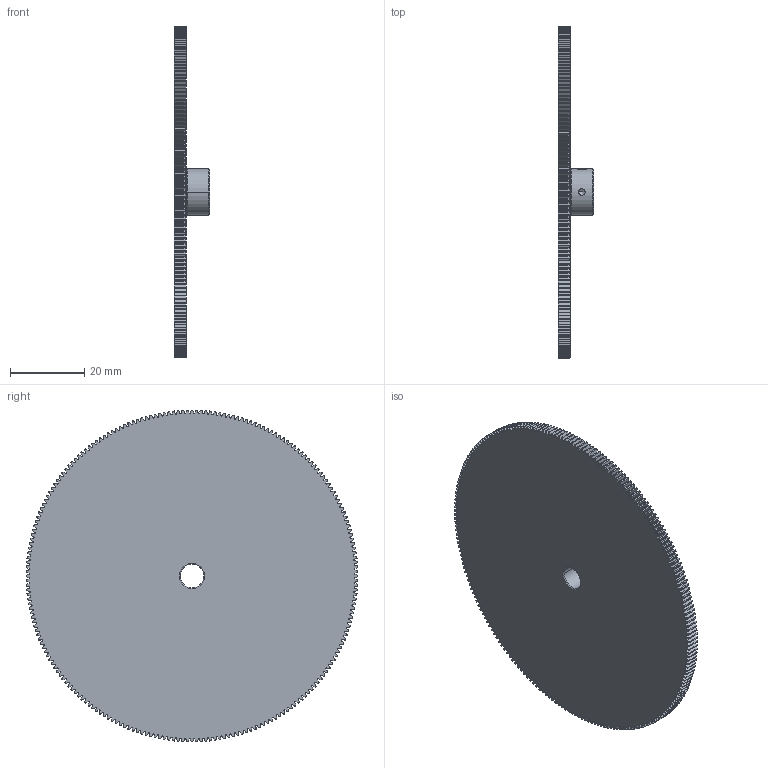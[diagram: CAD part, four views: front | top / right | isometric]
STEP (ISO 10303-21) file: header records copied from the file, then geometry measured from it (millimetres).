
FILE_DESCRIPTION((''),'2;1');
FILE_NAME('30599','2011-01-24T',('carefree'),(''),'PRO/ENGINEER BY PARAMETRIC TECHNOLOGY CORPORATION, 2005030','PRO/ENGINEER BY PARAMETRIC TECHNOLOGY CORPORATION, 2005030','');
FILE_SCHEMA(('CONFIG_CONTROL_DESIGN'));
Products named in the file (1): 30599
Bounding box: 9.53 x 89.69 x 89.69 mm (x, y, z)
Volume: 20178.7 mm3; surface area: 14602.7 mm2
Topology: 2 solids, 2 shells, 1838 faces, 5475 edges, 3641 vertices
Faces by surface type: cylinder 908, torus 450, extrusion 448, plane 18, cone 12, bspline 2
Entity records: 70531 total; most frequent: CARTESIAN_POINT 22464, ORIENTED_EDGE 10946, DIRECTION 9167, EDGE_CURVE 5473, AXIS2_PLACEMENT_3D 3660, VERTEX_POINT 3641, CIRCLE 2272, B_SPLINE_CURVE_WITH_KNOTS 2250
